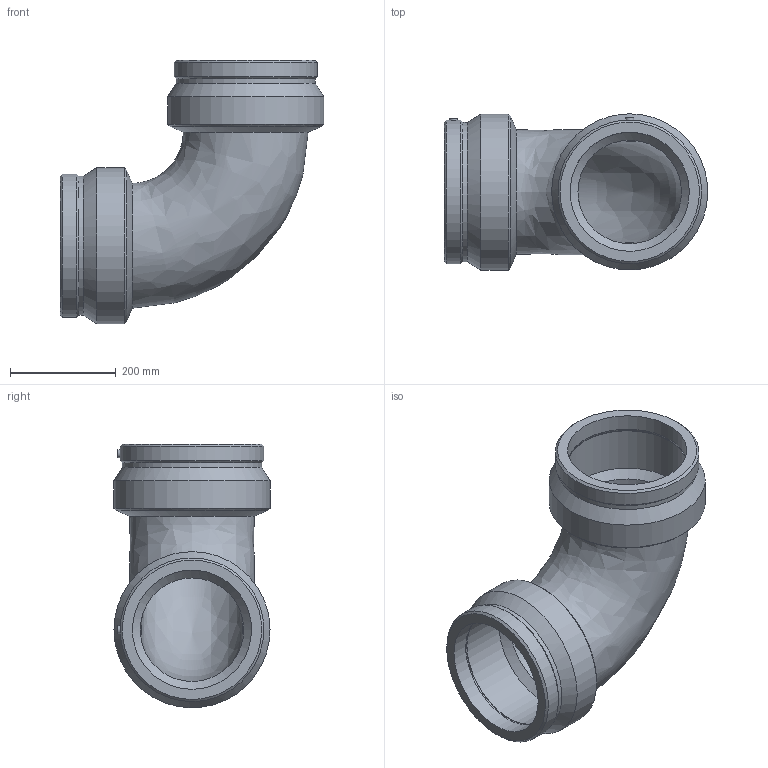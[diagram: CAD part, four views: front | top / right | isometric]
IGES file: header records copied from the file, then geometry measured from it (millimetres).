
Global section: file name: 490504225; native system: Autodesk Inventor 2026; preprocessor: unknown; author: KIM; date: 20260322.131255; units: millimetre
Bounding box: 497.95 x 295 x 497.95 mm (x, y, z)
Volume: 10934127.1 mm3; surface area: 973348.4 mm2
Topology: 1 solids, 1 shells, 42 faces, 108 edges, 76 vertices
Faces by surface type: bspline 42
